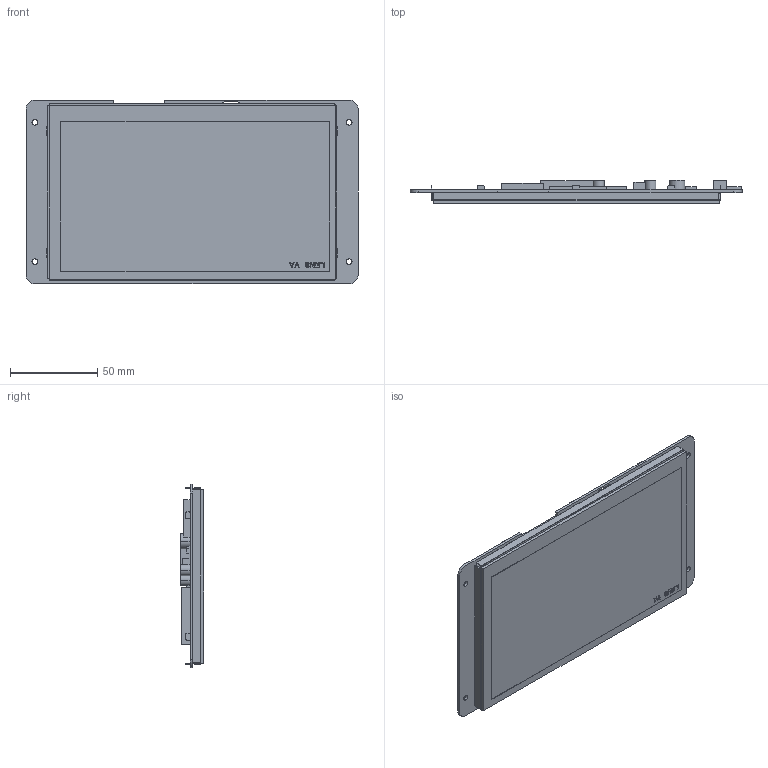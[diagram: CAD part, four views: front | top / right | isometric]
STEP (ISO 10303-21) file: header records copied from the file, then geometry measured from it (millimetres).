
FILE_DESCRIPTION((''),'2;1');
FILE_NAME('DMG80480C070-04WTC_ASM','2021-12-02T',('Administrator'),(''),'PRO/ENGINEER BY PARAMETRIC TECHNOLOGY CORPORATION, 2014320','PRO/ENGINEER BY PARAMETRIC TECHNOLOGY CORPORATION, 2014320','');
FILE_SCHEMA(('CONFIG_CONTROL_DESIGN','SHAPE_APPEARANCE_LAYERS_GROUPS'));
Length unit declared in the file: millimetre
Products named in the file (5): TK070019; LN80480C070IA2004; PCB; TPC070T0035; DMG80480C070-04WTC_ASM
Assembly tree (4 placements, depth 2):
  DMG80480C070-04WTC_ASM
    TK070019
    LN80480C070IA2004
    PCB
    TPC070T0035
Bounding box: 190.5 x 13.57 x 105.41 mm (x, y, z)
Volume: 122999.5 mm3; surface area: 123002.5 mm2
Topology: 4 solids, 4 shells, 410 faces, 1134 edges, 756 vertices
Faces by surface type: plane 350, cylinder 60
Entity records: 14252 total; most frequent: CARTESIAN_POINT 2309, ORIENTED_EDGE 2268, DIRECTION 2092, EDGE_CURVE 1134, VECTOR 1014, LINE 1014, VERTEX_POINT 756, AXIS2_PLACEMENT_3D 539
